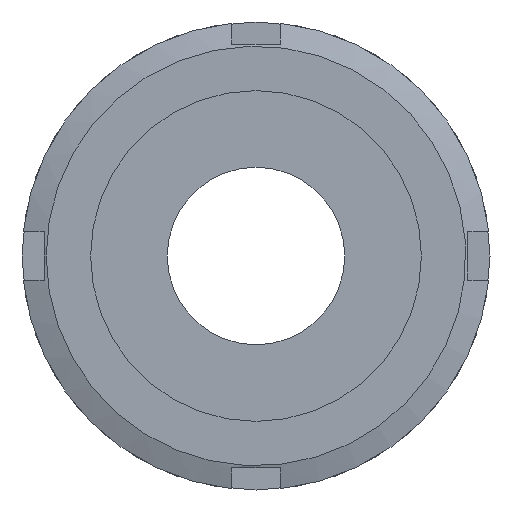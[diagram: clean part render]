
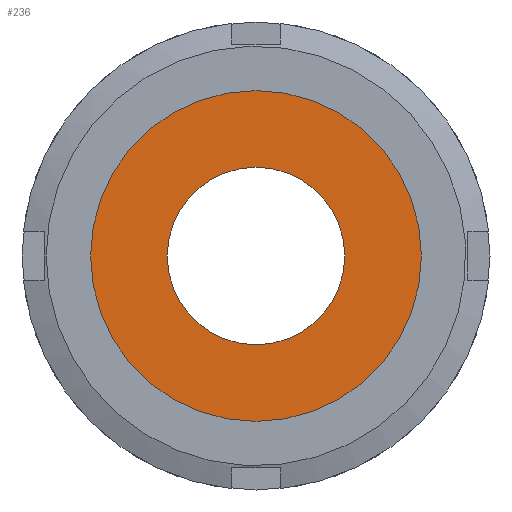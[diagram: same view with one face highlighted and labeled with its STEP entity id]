
A CAD part, left-side view. The second image highlights one B-rep face of the part: STEP entity #236.
In plain terms, the highlighted planar face has unit normal (-1, 0, 0) as drawn and (0, -1, 0) by its records, which use the part's own axes.
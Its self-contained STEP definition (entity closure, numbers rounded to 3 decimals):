
#236 = ADVANCED_FACE( '', ( #342, #343 ), #344, .T. );
#342 = FACE_OUTER_BOUND( '', #497, .T. );
#343 = FACE_BOUND( '', #498, .T. );
#344 = PLANE( '', #499 );
#497 = EDGE_LOOP( '', ( #795 ) );
#498 = EDGE_LOOP( '', ( #796 ) );
#499 = AXIS2_PLACEMENT_3D( '', #797, #798, #799 );
#795 = ORIENTED_EDGE( '', *, *, #1079, .T. );
#796 = ORIENTED_EDGE( '', *, *, #1080, .F. );
#797 = CARTESIAN_POINT( '', ( 11., 0., 0. ) );
#798 = DIRECTION( '', ( 0., -1., 0. ) );
#799 = DIRECTION( '', ( 0., 0., -1. ) );
#1079 = EDGE_CURVE( '', #1252, #1252, #1253, .T. );
#1080 = EDGE_CURVE( '', #1254, #1254, #1255, .T. );
#1252 = VERTEX_POINT( '', #1616 );
#1253 = CIRCLE( '', #1617, 20.5 );
#1254 = VERTEX_POINT( '', #1618 );
#1255 = CIRCLE( '', #1619, 11. );
#1616 = CARTESIAN_POINT( '', ( 0., 0., -20.5 ) );
#1617 = AXIS2_PLACEMENT_3D( '', #1863, #1864, #1865 );
#1618 = CARTESIAN_POINT( '', ( 0., 0., -11. ) );
#1619 = AXIS2_PLACEMENT_3D( '', #1866, #1867, #1868 );
#1863 = CARTESIAN_POINT( '', ( 0., 0., 0. ) );
#1864 = DIRECTION( '', ( 0., -1., 0. ) );
#1865 = DIRECTION( '', ( 0., 0., -1. ) );
#1866 = CARTESIAN_POINT( '', ( 0., 0., 0. ) );
#1867 = DIRECTION( '', ( 0., -1., 0. ) );
#1868 = DIRECTION( '', ( 0., 0., -1. ) );
